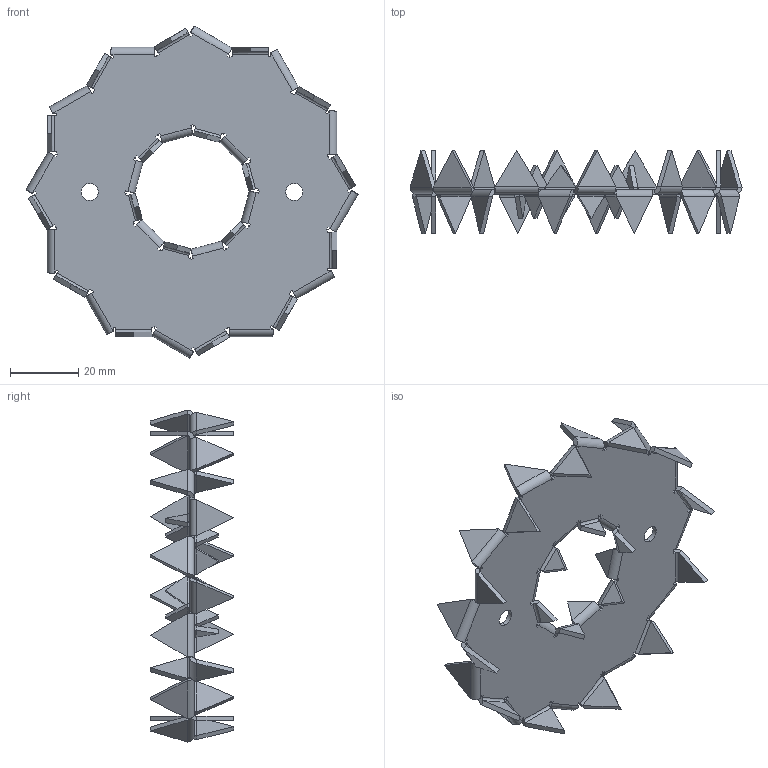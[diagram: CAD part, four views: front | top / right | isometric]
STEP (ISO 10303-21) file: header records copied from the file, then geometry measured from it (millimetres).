
FILE_DESCRIPTION (( 'STEP AP203' ), '1' );
FILE_NAME ('D95.STEP', '2020-05-20T13:26:24', ( '' ), ( '' ), 'SwSTEP 2.0', 'SolidWorks 2013', '' );
FILE_SCHEMA (( 'CONFIG_CONTROL_DESIGN' ));
Length unit declared in the file: millimetre
Products named in the file (1): D95
Bounding box: 97.33 x 24.35 x 97.33 mm (x, y, z)
Volume: 10247.3 mm3; surface area: 16630.2 mm2
Topology: 1 solids, 1 shells, 486 faces, 1164 edges, 680 vertices
Faces by surface type: plane 410, cylinder 76
Entity records: 13645 total; most frequent: CARTESIAN_POINT 2331, ORIENTED_EDGE 2328, DIRECTION 2290, EDGE_CURVE 1164, LINE 1012, VECTOR 1012, VERTEX_POINT 680, AXIS2_PLACEMENT_3D 639
